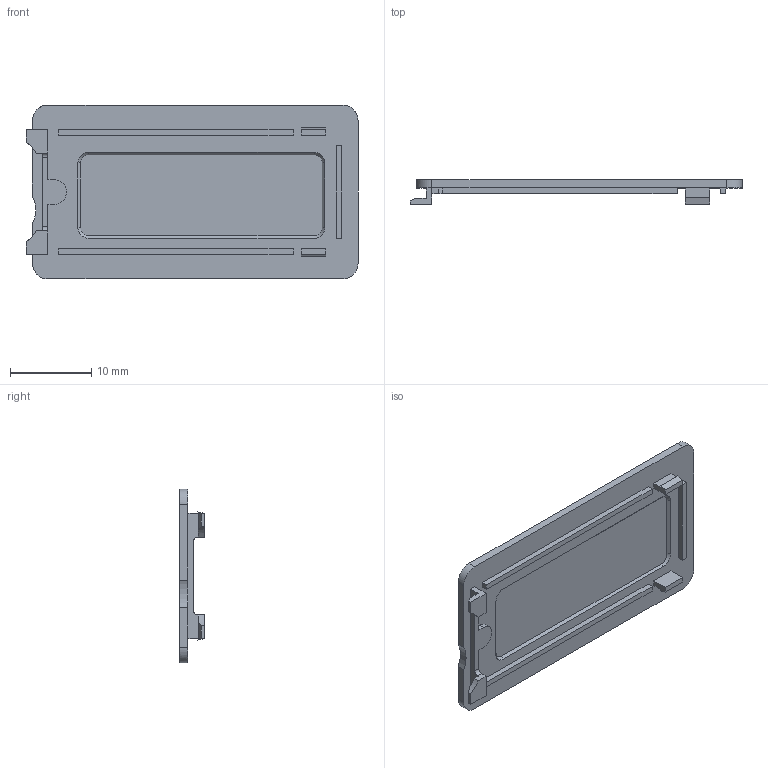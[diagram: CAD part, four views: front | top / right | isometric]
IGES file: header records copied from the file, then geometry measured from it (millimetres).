
Start section: ------------------------------------------------------------------------
Bounding box: 40.9 x 3 x 21.4 mm (x, y, z)
Volume: 827.8 mm3; surface area: 2035.4 mm2
Topology: 1 solids, 1 shells, 73 faces, 192 edges, 128 vertices
Faces by surface type: bspline 73
